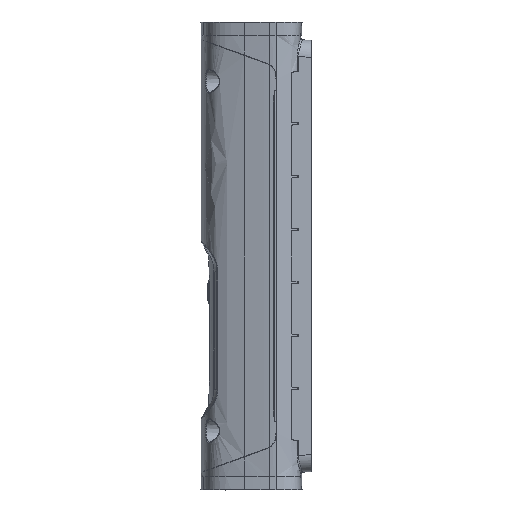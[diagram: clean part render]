
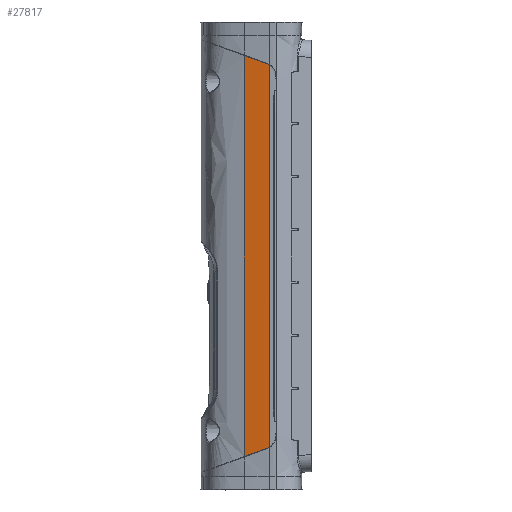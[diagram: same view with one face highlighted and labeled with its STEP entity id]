
A CAD part, left-side view. The second image highlights one B-rep face of the part: STEP entity #27817.
In plain terms, the highlighted cylindrical face has radius 391.419 mm (diameter 782.839 mm), a partial arc.
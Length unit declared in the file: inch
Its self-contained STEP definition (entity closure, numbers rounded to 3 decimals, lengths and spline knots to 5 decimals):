
#419 = ORIENTED_EDGE ( 'NONE', *, *, #48502, .T. ) ;
#1440 = CARTESIAN_POINT ( 'NONE',  ( -4.8419, 0.94702, -5.19825 ) ) ;
#1668 = CARTESIAN_POINT ( 'NONE',  ( -4.85909, 0.85877, -5.15202 ) ) ;
#2624 = B_SPLINE_CURVE_WITH_KNOTS ( 'NONE', 3,
 ( #61936, #29172, #34688, #66967 ),
 .UNSPECIFIED., .F., .F.,
 ( 4, 4 ),
 ( 0., 1. ),
 .UNSPECIFIED. ) ;
#5472 = CARTESIAN_POINT ( 'NONE',  ( -4.82989, 1.00607, 5.71974 ) ) ;
#5598 = EDGE_CURVE ( 'NONE', #17209, #28527, #2624, .T. ) ;
#6522 = ORIENTED_EDGE ( 'NONE', *, *, #28467, .T. ) ;
#8243 = CARTESIAN_POINT ( 'NONE',  ( -4.85909, 0.85877, -5.15202 ) ) ;
#9951 = CARTESIAN_POINT ( 'NONE',  ( -4.85909, 0.85877, 2.05067 ) ) ;
#12187 = CARTESIAN_POINT ( 'NONE',  ( -4.7041, 1.57027, -5.42509 ) ) ;
#12884 = CARTESIAN_POINT ( 'NONE',  ( -4.7041, 1.57027, 5.92509 ) ) ;
#13256 = CARTESIAN_POINT ( 'NONE',  ( -4.7041, 1.57027, 5.92509 ) ) ;
#13391 = EDGE_CURVE ( 'NONE', #22989, #55362, #32884, .T. ) ;
#13751 = EDGE_LOOP ( 'NONE', ( #15032, #29820, #6522, #419, #59658, #54808 ) ) ;
#14321 = B_SPLINE_CURVE_WITH_KNOTS ( 'NONE', 3,
 ( #12884, #50437, #67405, #12187 ),
 .UNSPECIFIED., .F., .F.,
 ( 4, 4 ),
 ( 0.04599, 0.95401 ),
 .UNSPECIFIED. ) ;
#15032 = ORIENTED_EDGE ( 'NONE', *, *, #30603, .T. ) ;
#15403 = CARTESIAN_POINT ( 'NONE',  ( -4.82989, 1.00607, -5.21974 ) ) ;
#16226 = CARTESIAN_POINT ( 'NONE',  ( -4.74955, 1.383, 5.85693 ) ) ;
#16421 = AXIS2_PLACEMENT_3D ( 'NONE', #29744, #29508, #35739 ) ;
#17209 = VERTEX_POINT ( 'NONE', #27986 ) ;
#18168 = VERTEX_POINT ( 'NONE', #8243 ) ;
#18302 = B_SPLINE_CURVE_WITH_KNOTS ( 'NONE', 3,
 ( #69728, #48197, #9951, #64210 ),
 .UNSPECIFIED., .F., .F.,
 ( 4, 4 ),
 ( 0.06784, 0.93216 ),
 .UNSPECIFIED. ) ;
#18552 = CARTESIAN_POINT ( 'NONE',  ( -4.74955, 1.383, -5.35693 ) ) ;
#18951 = EDGE_CURVE ( 'NONE', #55362, #18168, #53063, .T. ) ;
#22989 = VERTEX_POINT ( 'NONE', #25120 ) ;
#25120 = CARTESIAN_POINT ( 'NONE',  ( -4.7041, 1.57027, -5.42509 ) ) ;
#27817 = ADVANCED_FACE ( 'NONE', ( #69473 ), #67727, .T. ) ;
#27986 = CARTESIAN_POINT ( 'NONE',  ( -4.85909, 0.85877, 5.65202 ) ) ;
#28467 = EDGE_CURVE ( 'NONE', #28527, #32870, #46035, .T. ) ;
#28527 = VERTEX_POINT ( 'NONE', #5472 ) ;
#29172 = CARTESIAN_POINT ( 'NONE',  ( -4.85153, 0.8979, 5.67568 ) ) ;
#29508 = DIRECTION ( 'NONE',  ( 0., 0., 1. ) ) ;
#29744 = CARTESIAN_POINT ( 'NONE',  ( 10.27126, -2.06472, -6. ) ) ;
#29776 = CARTESIAN_POINT ( 'NONE',  ( -4.82989, 1.00607, -5.21974 ) ) ;
#29820 = ORIENTED_EDGE ( 'NONE', *, *, #5598, .T. ) ;
#30603 = EDGE_CURVE ( 'NONE', #18168, #17209, #18302, .T. ) ;
#32236 = CARTESIAN_POINT ( 'NONE',  ( -4.79149, 1.19491, 5.78848 ) ) ;
#32870 = VERTEX_POINT ( 'NONE', #13256 ) ;
#32884 =( BOUNDED_CURVE ( )  B_SPLINE_CURVE ( 3, ( #67093, #18552, #57023, #29776 ),
 .UNSPECIFIED., .F., .F. ) 
 B_SPLINE_CURVE_WITH_KNOTS ( ( 4, 4 ),
 ( 4.47426, 4.51178 ),
 .UNSPECIFIED. ) 
 CURVE ( )  GEOMETRIC_REPRESENTATION_ITEM ( )  RATIONAL_B_SPLINE_CURVE ( ( 1., 1., 1., 1. ) ) 
 REPRESENTATION_ITEM ( '' )  );
#34688 = CARTESIAN_POINT ( 'NONE',  ( -4.8419, 0.94702, 5.69825 ) ) ;
#35739 = DIRECTION ( 'NONE',  ( 1., 0., 0. ) ) ;
#37774 = CARTESIAN_POINT ( 'NONE',  ( -4.82989, 1.00607, 5.71974 ) ) ;
#43736 = CARTESIAN_POINT ( 'NONE',  ( -4.7041, 1.57027, 5.92509 ) ) ;
#46035 =( BOUNDED_CURVE ( )  B_SPLINE_CURVE ( 3, ( #37774, #32236, #16226, #43736 ),
 .UNSPECIFIED., .F., .F. ) 
 B_SPLINE_CURVE_WITH_KNOTS ( ( 4, 4 ),
 ( 4.913, 4.95051 ),
 .UNSPECIFIED. ) 
 CURVE ( )  GEOMETRIC_REPRESENTATION_ITEM ( )  RATIONAL_B_SPLINE_CURVE ( ( 1., 1., 1., 1. ) ) 
 REPRESENTATION_ITEM ( '' )  );
#48197 = CARTESIAN_POINT ( 'NONE',  ( -4.85909, 0.85877, -1.55067 ) ) ;
#48502 = EDGE_CURVE ( 'NONE', #32870, #22989, #14321, .T. ) ;
#50437 = CARTESIAN_POINT ( 'NONE',  ( -4.7041, 1.57027, 2.1417 ) ) ;
#53063 = B_SPLINE_CURVE_WITH_KNOTS ( 'NONE', 3,
 ( #66944, #1440, #67167, #1668 ),
 .UNSPECIFIED., .F., .F.,
 ( 4, 4 ),
 ( 0., 1. ),
 .UNSPECIFIED. ) ;
#54808 = ORIENTED_EDGE ( 'NONE', *, *, #18951, .T. ) ;
#55362 = VERTEX_POINT ( 'NONE', #15403 ) ;
#57023 = CARTESIAN_POINT ( 'NONE',  ( -4.79149, 1.19491, -5.28848 ) ) ;
#59658 = ORIENTED_EDGE ( 'NONE', *, *, #13391, .T. ) ;
#61936 = CARTESIAN_POINT ( 'NONE',  ( -4.85909, 0.85877, 5.65202 ) ) ;
#64210 = CARTESIAN_POINT ( 'NONE',  ( -4.85909, 0.85877, 5.65202 ) ) ;
#66944 = CARTESIAN_POINT ( 'NONE',  ( -4.82989, 1.00607, -5.21974 ) ) ;
#66967 = CARTESIAN_POINT ( 'NONE',  ( -4.82989, 1.00607, 5.71974 ) ) ;
#67093 = CARTESIAN_POINT ( 'NONE',  ( -4.7041, 1.57027, -5.42509 ) ) ;
#67167 = CARTESIAN_POINT ( 'NONE',  ( -4.85153, 0.8979, -5.17568 ) ) ;
#67405 = CARTESIAN_POINT ( 'NONE',  ( -4.7041, 1.57027, -1.6417 ) ) ;
#67727 = CYLINDRICAL_SURFACE ( 'NONE', #16421, 15.41021 ) ;
#69473 = FACE_OUTER_BOUND ( 'NONE', #13751, .T. ) ;
#69728 = CARTESIAN_POINT ( 'NONE',  ( -4.85909, 0.85877, -5.15202 ) ) ;
